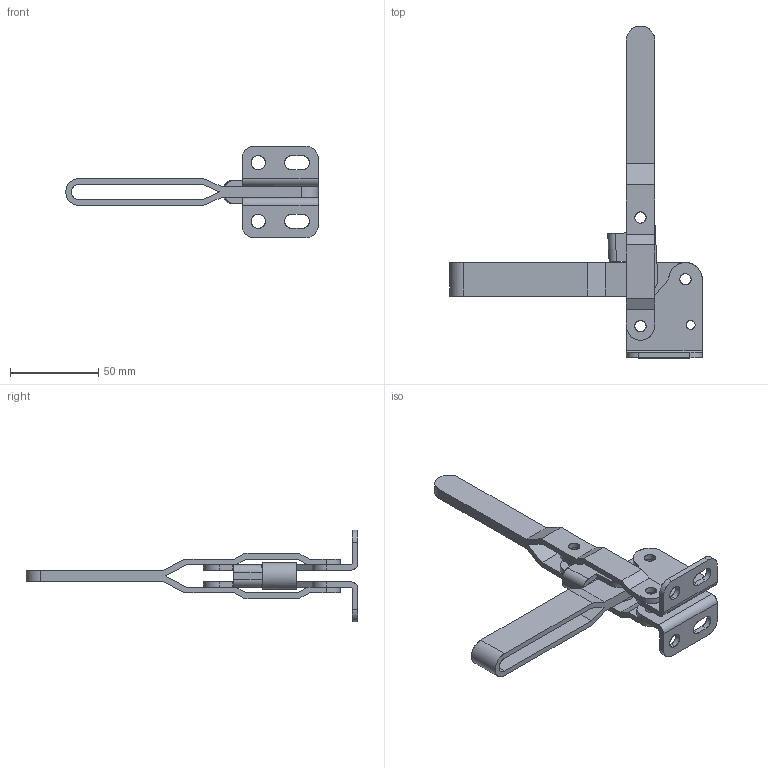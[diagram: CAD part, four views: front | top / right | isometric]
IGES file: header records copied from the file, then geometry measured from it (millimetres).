
Start section: Comment
Global section: file name: 13002b.igs; native system:  By Spatial Corp.; preprocessor: XPlus PS/IGES 3.0; author: Author; organization: Title; date: 20050216.172756; units: inch
Bounding box: 142.99 x 187.99 x 52 mm (x, y, z)
Surface area: 38218.7 mm2 (no closed solid volume)
Topology: 0 solids, 0 shells, 140 faces, 788 edges, 788 vertices
Faces by surface type: extrusion 74, revolution 66
